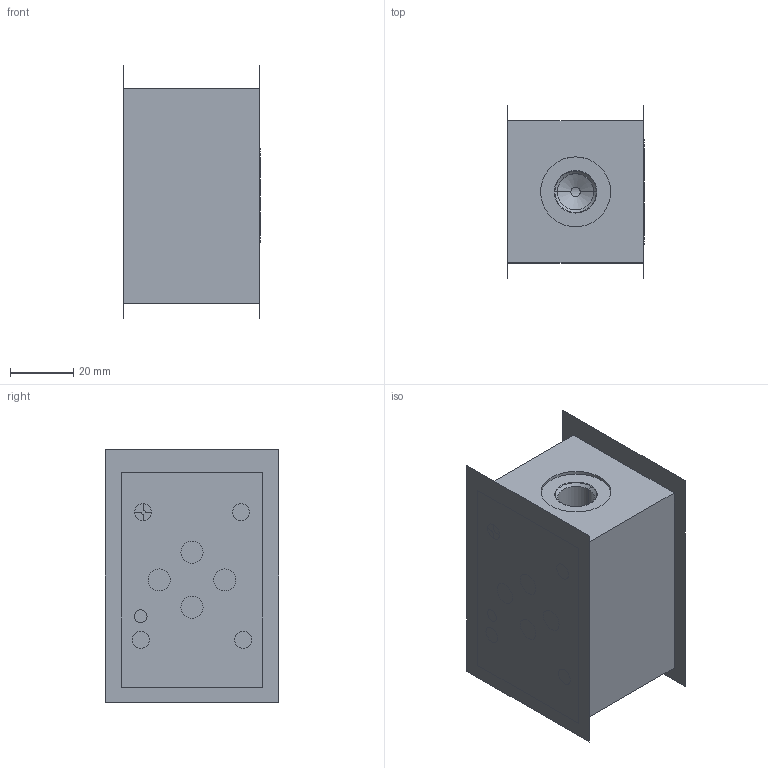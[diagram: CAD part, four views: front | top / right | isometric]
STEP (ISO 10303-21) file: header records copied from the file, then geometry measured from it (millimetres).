
FILE_DESCRIPTION((''),'2;1');
FILE_NAME('421700_ASM','2023-10-11T',('l.soukupova'),(''),'PRO/ENGINEER BY PARAMETRIC TECHNOLOGY CORPORATION, 2015440','PRO/ENGINEER BY PARAMETRIC TECHNOLOGY CORPORATION, 2015440','');
FILE_SCHEMA(('AUTOMOTIVE_DESIGN { 1 0 10303 214 1 1 1 1 }'));
Length unit declared in the file: millimetre
Products named in the file (6): 245985; DKAR00012_N70_AF0; DKAR00012_N70_AF1; DKAR00012_N70_AF2; DKAR00012_N70_AF3; 421700_ASM
Assembly tree (5 placements, depth 2):
  421700_ASM
    245985
    DKAR00012_N70_AF0
    DKAR00012_N70_AF1
    DKAR00012_N70_AF2
    DKAR00012_N70_AF3
Bounding box: 43.28 x 55 x 80 mm (x, y, z)
Volume: 116626.1 mm3; surface area: 34486.1 mm2
Topology: 5 solids, 13 shells, 108 faces, 405 edges, 403 vertices
Faces by surface type: cylinder 64, plane 28, cone 16
Entity records: 6665 total; most frequent: CARTESIAN_POINT 1126, DIRECTION 849, PRESENTATION_STYLE_ASSIGNMENT 492, STYLED_ITEM 487, ORIENTED_EDGE 480, CURVE_STYLE 452, AXIS2_PLACEMENT_3D 314, EDGE_CURVE 256
